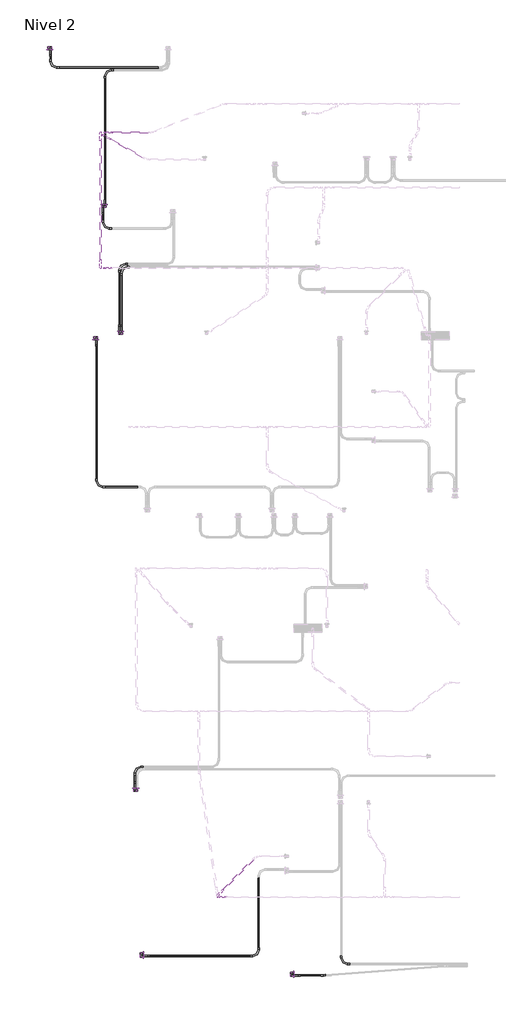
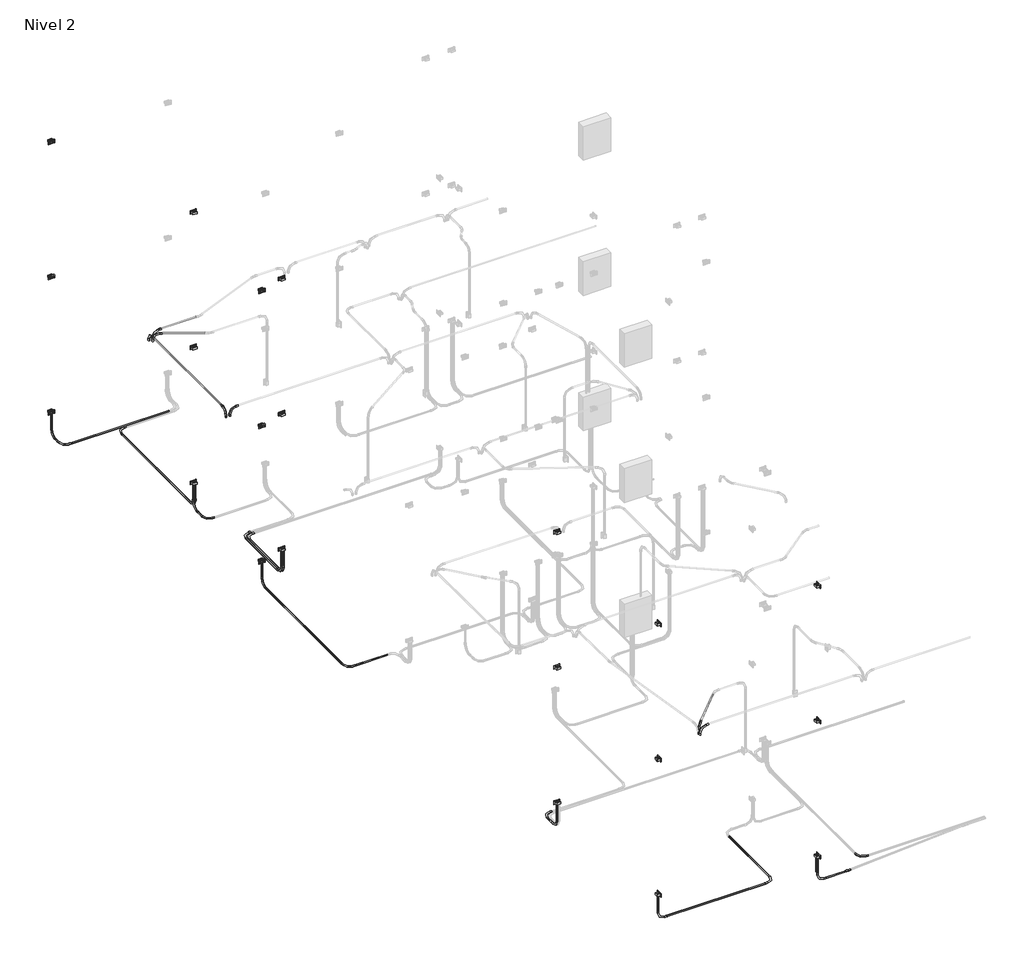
# One storey, part 1 of 10: 26 cable carrier fittings, 26 cable carrier segments, 21 proxies.
"""IFC4 building model written with IfcOpenShell, lengths in millimetres."""

from ifc_helpers import new_model, si_unit, point, frame, frame_2d, origin, place, context, project, spatial, circle_curve, trimmed, segment, composite_curve, outline, extrude, transform, mapped, element, save
from components import gfci_180f1b41, m_codo_de_tubo_extremo_liso_pvc_9da73e12, m_codo_de_tubo_extremo_liso_pvc_e945fc89, m_codo_de_tubo_extremo_liso_pvc_102f0f41

model = new_model("IFC4")

# Units and contexts
model_context = context("Model", 3, world=origin())
ifc_project = project(units=[si_unit("LENGTHUNIT", "METRE", prefix="MILLI")], contexts=[model_context])

# Site, building, storey
site = spatial("IfcSite", under=ifc_project)
building = spatial("IfcBuilding", under=site)
storey = spatial("IfcBuildingStorey", under=building, Name="Nivel 2", Elevation=2800.0)

# Proxies
placement = place(None, origin())
gfci_shape = gfci_180f1b41(model_context)
element("IfcBuildingElementProxy", 1, Name="Tomacorriente doble 220V : GFCI", ObjectType="Tomacorriente doble 220V : GFCI", at=placement, inside=storey, context=model_context, shape_type="MappedRepresentation", body=[
    mapped(gfci_shape, transform((-1576.6187083, 17515.0, 3200.0), x_axis=(0.0, 0.0, 1.0), y_axis=(-1.0, 0.0, 0.0), z_axis=(0.0, -1.0, 0.0))),
])
element("IfcBuildingElementProxy", 2, Name="Tomacorriente doble 220V : GFCI", ObjectType="Tomacorriente doble 220V : GFCI", at=placement, inside=storey, context=model_context, shape_type="MappedRepresentation", body=[
    mapped(gfci_shape, transform((-580.0978546, 14683.4801072, 3200.0), x_axis=(0.0, 0.0, 1.0), y_axis=(1.0, 0.0, 0.0), z_axis=(0.0, 1.0, 0.0))),
])
element("IfcBuildingElementProxy", 3, Name="Tomacorriente doble 220V : GFCI", ObjectType="Tomacorriente doble 220V : GFCI", at=placement, inside=storey, context=model_context, shape_type="MappedRepresentation", body=[
    mapped(gfci_shape, transform((-280.06305, 12365.0, 3200.0), x_axis=(0.0, 0.0, 1.0), y_axis=(1.0, 0.0, 0.0), z_axis=(0.0, 1.0, 0.0))),
])
element("IfcBuildingElementProxy", 4, Name="Tomacorriente doble 220V : GFCI", ObjectType="Tomacorriente doble 220V : GFCI", at=placement, inside=storey, context=model_context, shape_type="MappedRepresentation", body=[
    mapped(gfci_shape, transform((-735.5239175, 12215.0, 3200.0), x_axis=(0.0, 0.0, 1.0), y_axis=(-1.0, 0.0, 0.0), z_axis=(0.0, -1.0, 0.0))),
])
element("IfcBuildingElementProxy", 5, Name="Tomacorriente doble 220V : GFCI", ObjectType="Tomacorriente doble 220V : GFCI", at=placement, inside=storey, context=model_context, shape_type="MappedRepresentation", body=[
    mapped(gfci_shape, transform((-0.955713, 4015.0, 3200.0), x_axis=(0.0, 0.0, 1.0), y_axis=(1.0, 0.0, 0.0), z_axis=(0.0, 1.0, 0.0))),
])
element("IfcBuildingElementProxy", 6, Name="Tomacorriente doble 220V : GFCI", ObjectType="Tomacorriente doble 220V : GFCI", at=placement, inside=storey, context=model_context, shape_type="MappedRepresentation", body=[
    mapped(gfci_shape, transform((135.0, 969.3040793, 3200.0), x_axis=(0.0, 0.0, 1.0), y_axis=(0.0, -1.0, 0.0), z_axis=(1.0, 0.0, 0.0))),
])
element("IfcBuildingElementProxy", 7, Name="Tomacorriente doble 220V : GFCI", ObjectType="Tomacorriente doble 220V : GFCI", at=placement, inside=storey, context=model_context, shape_type="MappedRepresentation", body=[
    mapped(gfci_shape, transform((2885.0, 616.6059943, 3200.0), x_axis=(0.0, 0.0, 1.0), y_axis=(0.0, -1.0, 0.0), z_axis=(1.0, 0.0, 0.0))),
])
element("IfcBuildingElementProxy", 8, Name="Tomacorriente doble 220V : GFCI", ObjectType="Tomacorriente doble 220V : GFCI", at=placement, inside=storey, context=model_context, shape_type="MappedRepresentation", body=[
    mapped(gfci_shape, transform((-1576.6187083, 17515.0, 5850.0), x_axis=(0.0, 0.0, 1.0), y_axis=(-1.0, 0.0, 0.0), z_axis=(0.0, -1.0, 0.0))),
])
element("IfcBuildingElementProxy", 9, Name="Tomacorriente doble 220V : GFCI", ObjectType="Tomacorriente doble 220V : GFCI", at=placement, inside=storey, context=model_context, shape_type="MappedRepresentation", body=[
    mapped(gfci_shape, transform((-580.0978546, 14683.4801072, 5850.0), x_axis=(0.0, 0.0, 1.0), y_axis=(1.0, 0.0, 0.0), z_axis=(0.0, 1.0, 0.0))),
])
element("IfcBuildingElementProxy", 10, Name="Tomacorriente doble 220V : GFCI", ObjectType="Tomacorriente doble 220V : GFCI", at=placement, inside=storey, context=model_context, shape_type="MappedRepresentation", body=[
    mapped(gfci_shape, transform((-280.06305, 12365.0, 5850.0), x_axis=(0.0, 0.0, 1.0), y_axis=(1.0, 0.0, 0.0), z_axis=(0.0, 1.0, 0.0))),
])
element("IfcBuildingElementProxy", 11, Name="Tomacorriente doble 220V : GFCI", ObjectType="Tomacorriente doble 220V : GFCI", at=placement, inside=storey, context=model_context, shape_type="MappedRepresentation", body=[
    mapped(gfci_shape, transform((-735.5239175, 12215.0, 5850.0), x_axis=(0.0, 0.0, 1.0), y_axis=(-1.0, 0.0, 0.0), z_axis=(0.0, -1.0, 0.0))),
])
element("IfcBuildingElementProxy", 12, Name="Tomacorriente doble 220V : GFCI", ObjectType="Tomacorriente doble 220V : GFCI", at=placement, inside=storey, context=model_context, shape_type="MappedRepresentation", body=[
    mapped(gfci_shape, transform((-0.955713, 4015.0, 5850.0), x_axis=(0.0, 0.0, 1.0), y_axis=(1.0, 0.0, 0.0), z_axis=(0.0, 1.0, 0.0))),
])
element("IfcBuildingElementProxy", 13, Name="Tomacorriente doble 220V : GFCI", ObjectType="Tomacorriente doble 220V : GFCI", at=placement, inside=storey, context=model_context, shape_type="MappedRepresentation", body=[
    mapped(gfci_shape, transform((135.0, 969.3040793, 5850.0), x_axis=(0.0, 0.0, 1.0), y_axis=(0.0, -1.0, 0.0), z_axis=(1.0, 0.0, 0.0))),
])
element("IfcBuildingElementProxy", 14, Name="Tomacorriente doble 220V : GFCI", ObjectType="Tomacorriente doble 220V : GFCI", at=placement, inside=storey, context=model_context, shape_type="MappedRepresentation", body=[
    mapped(gfci_shape, transform((2885.0, 616.6059943, 5850.0), x_axis=(0.0, 0.0, 1.0), y_axis=(0.0, -1.0, 0.0), z_axis=(1.0, 0.0, 0.0))),
])
element("IfcBuildingElementProxy", 15, Name="Tomacorriente doble 220V : GFCI", ObjectType="Tomacorriente doble 220V : GFCI", at=placement, inside=storey, context=model_context, shape_type="MappedRepresentation", body=[
    mapped(gfci_shape, transform((-1576.6187083, 17515.0, 8500.0), x_axis=(0.0, 0.0, 1.0), y_axis=(-1.0, 0.0, 0.0), z_axis=(0.0, -1.0, 0.0))),
])
element("IfcBuildingElementProxy", 16, Name="Tomacorriente doble 220V : GFCI", ObjectType="Tomacorriente doble 220V : GFCI", at=placement, inside=storey, context=model_context, shape_type="MappedRepresentation", body=[
    mapped(gfci_shape, transform((-580.0978546, 14683.4801072, 8500.0), x_axis=(0.0, 0.0, 1.0), y_axis=(1.0, 0.0, 0.0), z_axis=(0.0, 1.0, 0.0))),
])
element("IfcBuildingElementProxy", 17, Name="Tomacorriente doble 220V : GFCI", ObjectType="Tomacorriente doble 220V : GFCI", at=placement, inside=storey, context=model_context, shape_type="MappedRepresentation", body=[
    mapped(gfci_shape, transform((-280.06305, 12365.0, 8500.0), x_axis=(0.0, 0.0, 1.0), y_axis=(1.0, 0.0, 0.0), z_axis=(0.0, 1.0, 0.0))),
])
element("IfcBuildingElementProxy", 18, Name="Tomacorriente doble 220V : GFCI", ObjectType="Tomacorriente doble 220V : GFCI", at=placement, inside=storey, context=model_context, shape_type="MappedRepresentation", body=[
    mapped(gfci_shape, transform((-735.5239175, 12215.0, 8500.0), x_axis=(0.0, 0.0, 1.0), y_axis=(-1.0, 0.0, 0.0), z_axis=(0.0, -1.0, 0.0))),
])
element("IfcBuildingElementProxy", 19, Name="Tomacorriente doble 220V : GFCI", ObjectType="Tomacorriente doble 220V : GFCI", at=placement, inside=storey, context=model_context, shape_type="MappedRepresentation", body=[
    mapped(gfci_shape, transform((-0.955713, 4015.0, 8500.0), x_axis=(0.0, 0.0, 1.0), y_axis=(1.0, 0.0, 0.0), z_axis=(0.0, 1.0, 0.0))),
])
element("IfcBuildingElementProxy", 20, Name="Tomacorriente doble 220V : GFCI", ObjectType="Tomacorriente doble 220V : GFCI", at=placement, inside=storey, context=model_context, shape_type="MappedRepresentation", body=[
    mapped(gfci_shape, transform((135.0, 969.3040793, 8500.0), x_axis=(0.0, 0.0, 1.0), y_axis=(0.0, -1.0, 0.0), z_axis=(1.0, 0.0, 0.0))),
])
element("IfcBuildingElementProxy", 21, Name="Tomacorriente doble 220V : GFCI", ObjectType="Tomacorriente doble 220V : GFCI", at=placement, inside=storey, context=model_context, shape_type="MappedRepresentation", body=[
    mapped(gfci_shape, transform((2885.0, 616.6059943, 8500.0), x_axis=(0.0, 0.0, 1.0), y_axis=(0.0, -1.0, 0.0), z_axis=(1.0, 0.0, 0.0))),
])

# Cable carrier fittings
m_codo_de_tubo_extremo_liso_pvc_shape = m_codo_de_tubo_extremo_liso_pvc_9da73e12(model_context)
element("IfcCableCarrierFitting", 22, ObjectType="M_Codo de tubo - Extremo liso - PVC : CODO POTENCIA", at=placement, inside=storey, context=model_context, shape_type="MappedRepresentation", body=[
    mapped(m_codo_de_tubo_extremo_liso_pvc_shape, transform((-1558.5868884, 17544.6371118, 2730.0), x_axis=(0.0, 0.0, -1.0), y_axis=(0.0, -1.0, 0.0), z_axis=(-1.0, 0.0, 0.0))),
])
element("IfcCableCarrierFitting", 23, ObjectType="M_Codo de tubo - Extremo liso - PVC : CODO POTENCIA", at=placement, inside=storey, context=model_context, shape_type="MappedRepresentation", body=[
    mapped(m_codo_de_tubo_extremo_liso_pvc_shape, transform((-717.4920977, 12244.6371118, 2730.0), x_axis=(0.0, 0.0, -1.0), y_axis=(0.0, -1.0, 0.0), z_axis=(-1.0, 0.0, 0.0))),
])
element("IfcCableCarrierFitting", 24, ObjectType="M_Codo de tubo - Extremo liso - PVC : CODO POTENCIA", at=placement, inside=storey, context=model_context, shape_type="MappedRepresentation", body=[
    mapped(m_codo_de_tubo_extremo_liso_pvc_shape, transform((-717.4920977, 9523.463856, 2730.0), x_axis=(0.0, -1.0, 0.0), y_axis=(1.0, 0.0, 0.0), z_axis=(0.0, 0.0, 1.0))),
])
element("IfcCableCarrierFitting", 25, ObjectType="M_Codo de tubo - Extremo liso - PVC : CODO POTENCIA", at=placement, inside=storey, context=model_context, shape_type="MappedRepresentation", body=[
    mapped(m_codo_de_tubo_extremo_liso_pvc_shape, transform((-262.0312302, 13545.7723493, 2730.0), x_axis=(-1.0, 0.0, 0.0), y_axis=(0.0, -1.0, 0.0), z_axis=(0.0, 0.0, 1.0))),
])
element("IfcCableCarrierFitting", 26, ObjectType="M_Codo de tubo - Extremo liso - PVC : CODO POTENCIA", at=placement, inside=storey, context=model_context, shape_type="MappedRepresentation", body=[
    mapped(m_codo_de_tubo_extremo_liso_pvc_shape, transform((-262.0312302, 12335.3628882, 2730.0), x_axis=(0.0, 0.0, -1.0), y_axis=(0.0, 1.0, 0.0), z_axis=(1.0, 0.0, 0.0))),
])
element("IfcCableCarrierFitting", 27, ObjectType="M_Codo de tubo - Extremo liso - PVC : CODO POTENCIA", at=placement, inside=storey, context=model_context, shape_type="MappedRepresentation", body=[
    mapped(m_codo_de_tubo_extremo_liso_pvc_shape, transform((-298.0948698, 13596.0465616, 2730.0), x_axis=(-1.0, 0.0, 0.0), y_axis=(0.0, -1.0, 0.0), z_axis=(0.0, 0.0, 1.0))),
])
element("IfcCableCarrierFitting", 28, ObjectType="M_Codo de tubo - Extremo liso - PVC : CODO POTENCIA", at=placement, inside=storey, context=model_context, shape_type="MappedRepresentation", body=[
    mapped(m_codo_de_tubo_extremo_liso_pvc_shape, transform((-298.0948698, 12335.3628882, 2730.0), x_axis=(0.0, 0.0, -1.0), y_axis=(0.0, 1.0, 0.0), z_axis=(1.0, 0.0, 0.0))),
])
element("IfcCableCarrierFitting", 29, ObjectType="M_Codo de tubo - Extremo liso - PVC : CODO POTENCIA", at=placement, inside=storey, context=model_context, shape_type="MappedRepresentation", body=[
    mapped(m_codo_de_tubo_extremo_liso_pvc_shape, transform((-598.1296744, 14653.8429955, 2730.0), x_axis=(0.0, 0.0, -1.0), y_axis=(0.0, -1.0, 0.0), z_axis=(-1.0, 0.0, 0.0))),
])
element("IfcCableCarrierFitting", 30, ObjectType="M_Codo de tubo - Extremo liso - PVC : CODO POTENCIA", at=placement, inside=storey, context=model_context, shape_type="MappedRepresentation", body=[
    mapped(m_codo_de_tubo_extremo_liso_pvc_shape, transform((-598.1296744, 14243.117219, 2730.0), x_axis=(0.0, -1.0, 0.0), y_axis=(1.0, 0.0, 0.0), z_axis=(0.0, 0.0, 1.0))),
])
element("IfcCableCarrierFitting", 31, ObjectType="M_Codo de tubo - Extremo liso - PVC : CODO POTENCIA", at=placement, inside=storey, context=model_context, shape_type="MappedRepresentation", body=[
    mapped(m_codo_de_tubo_extremo_liso_pvc_shape, transform((-562.0660348, 17141.7513363, 2730.0), x_axis=(-1.0, 0.0, 0.0), y_axis=(0.0, -1.0, 0.0), z_axis=(0.0, 0.0, 1.0))),
])
element("IfcCableCarrierFitting", 32, ObjectType="M_Codo de tubo - Extremo liso - PVC : CODO POTENCIA", at=placement, inside=storey, context=model_context, shape_type="MappedRepresentation", body=[
    mapped(m_codo_de_tubo_extremo_liso_pvc_shape, transform((-562.0660348, 14653.8429955, 2730.0), x_axis=(0.0, 0.0, -1.0), y_axis=(0.0, 1.0, 0.0), z_axis=(1.0, 0.0, 0.0))),
])
element("IfcCableCarrierFitting", 33, ObjectType="M_Codo de tubo - Extremo liso - PVC : CODO POTENCIA", at=placement, inside=storey, context=model_context, shape_type="MappedRepresentation", body=[
    mapped(m_codo_de_tubo_extremo_liso_pvc_shape, transform((-1558.5868884, 17184.6371118, 2730.0), x_axis=(0.0, -1.0, 0.0), y_axis=(1.0, 0.0, 0.0), z_axis=(0.0, 0.0, 1.0))),
])
element("IfcCableCarrierFitting", 34, ObjectType="M_Codo de tubo - Extremo liso - PVC : CODO POTENCIA", at=placement, inside=storey, context=model_context, shape_type="MappedRepresentation", body=[
    mapped(m_codo_de_tubo_extremo_liso_pvc_shape, transform((-18.9875328, 3985.3628882, 2730.0), x_axis=(0.0, 0.0, -1.0), y_axis=(0.0, 1.0, 0.0), z_axis=(1.0, 0.0, 0.0))),
])
element("IfcCableCarrierFitting", 35, ObjectType="M_Codo de tubo - Extremo liso - PVC : CODO POTENCIA", at=placement, inside=storey, context=model_context, shape_type="MappedRepresentation", body=[
    mapped(m_codo_de_tubo_extremo_liso_pvc_shape, transform((-18.9875328, 4410.0, 2730.0), x_axis=(-1.0, 0.0, 0.0), y_axis=(0.0, -1.0, 0.0), z_axis=(0.0, 0.0, 1.0))),
])
element("IfcCableCarrierFitting", 36, ObjectType="M_Codo de tubo - Extremo liso - PVC : CODO POTENCIA", at=placement, inside=storey, context=model_context, shape_type="MappedRepresentation", body=[
    mapped(m_codo_de_tubo_extremo_liso_pvc_shape, transform((105.3628882, 951.2722594, 2730.0), x_axis=(0.0, 0.0, -1.0), y_axis=(1.0, 0.0, 0.0), z_axis=(0.0, -1.0, 0.0))),
])
element("IfcCableCarrierFitting", 37, ObjectType="M_Codo de tubo - Extremo liso - PVC : CODO POTENCIA", at=placement, inside=storey, context=model_context, shape_type="MappedRepresentation", body=[
    mapped(m_codo_de_tubo_extremo_liso_pvc_shape, transform((2855.3628882, 598.5741745, 2730.0), x_axis=(0.0, 0.0, -1.0), y_axis=(1.0, 0.0, 0.0), z_axis=(0.0, -1.0, 0.0))),
])
element("IfcCableCarrierFitting", 38, ObjectType="M_Codo de tubo - Extremo liso - PVC : CODO POTENCIA", at=placement, inside=storey, context=model_context, shape_type="MappedRepresentation", body=[
    mapped(m_codo_de_tubo_extremo_liso_pvc_shape, transform((3759.7333421, 805.065499, 2730.0), x_axis=(0.0, -1.0, 0.0), y_axis=(1.0, 0.0, 0.0), z_axis=(0.0, 0.0, 1.0))),
])
element("IfcCableCarrierFitting", 39, ObjectType="M_Codo de tubo - Extremo liso - PVC : CODO POTENCIA", at=placement, inside=storey, context=model_context, shape_type="MappedRepresentation", body=[
    mapped(m_codo_de_tubo_extremo_liso_pvc_shape, transform((2245.3628882, 951.2722594, 2730.0), x_axis=(1.0, 0.0, 0.0), y_axis=(0.0, 1.0, 0.0), z_axis=(0.0, 0.0, 1.0))),
])
m_codo_de_tubo_extremo_liso_pvc_2_shape = m_codo_de_tubo_extremo_liso_pvc_e945fc89(model_context)
element("IfcCableCarrierFitting", 40, ObjectType="M_Codo de tubo - Extremo liso - PVC : CODO POTENCIA", at=placement, inside=storey, context=model_context, shape_type="MappedRepresentation", body=[
    mapped(m_codo_de_tubo_extremo_liso_pvc_2_shape, transform((3425.3628882, 598.5741745, 2730.0), x_axis=(1.0, 0.0, 0.0), y_axis=(0.0, 1.0, 0.0), z_axis=(0.0, 0.0, 1.0))),
])
element("IfcCableCarrierFitting", 41, ObjectType="M_Codo de tubo - Extremo liso - PVC : CODO ILUMINACION", at=placement, inside=storey, context=model_context, shape_type="MappedRepresentation", body=[
    mapped(m_codo_de_tubo_extremo_liso_pvc_shape, transform((-574.4336886, 16001.2965089, 5350.0), x_axis=(-1.0, 0.0, 0.0), y_axis=(0.0, 0.0, -1.0), z_axis=(0.0, -1.0, 0.0))),
])
element("IfcCableCarrierFitting", 42, ObjectType="M_Codo de tubo - Extremo liso - PVC : CODO ILUMINACION", at=placement, inside=storey, context=model_context, shape_type="MappedRepresentation", body=[
    mapped(m_codo_de_tubo_extremo_liso_pvc_shape, transform((-574.7554902, 13521.2601744, 5350.0), x_axis=(-1.0, 0.0, 0.0), y_axis=(0.0, 0.0, -1.0), z_axis=(0.0, -1.0, 0.0))),
])
element("IfcCableCarrierFitting", 43, ObjectType="M_Codo de tubo - Extremo liso - PVC : CODO ILUMINACION", at=placement, inside=storey, context=model_context, shape_type="MappedRepresentation", body=[
    mapped(m_codo_de_tubo_extremo_liso_pvc_shape, transform((1504.5487012, 2026.1291573, 5350.0), x_axis=(-1.0, 0.0, 0.0), y_axis=(0.0, 0.0, -1.0), z_axis=(0.0, -1.0, 0.0))),
])
element("IfcCableCarrierFitting", 44, ObjectType="M_Codo de tubo - Extremo liso - PVC : CODO ILUMINACION", at=placement, inside=storey, context=model_context, shape_type="MappedRepresentation", body=[
    mapped(m_codo_de_tubo_extremo_liso_pvc_shape, transform((-644.8986574, 16001.2965089, 5350.0), x_axis=(0.0, 1.0, 0.0), y_axis=(0.0, 0.0, -1.0), z_axis=(-1.0, 0.0, 0.0))),
])
element("IfcCableCarrierFitting", 45, ObjectType="M_Codo de tubo - Extremo liso - PVC : CODO ILUMINACION", at=placement, inside=storey, context=model_context, shape_type="MappedRepresentation", body=[
    mapped(m_codo_de_tubo_extremo_liso_pvc_shape, transform((-598.987036, 15953.0013122, 5350.0), x_axis=(-0.872280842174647, 0.4890052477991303, 0.0), y_axis=(0.0, 0.0, -1.0000000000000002), z_axis=(-0.4890052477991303, -0.872280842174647, 0.0))),
])
m_codo_de_tubo_extremo_liso_pvc_3_shape = m_codo_de_tubo_extremo_liso_pvc_102f0f41(model_context)
element("IfcCableCarrierFitting", 46, ObjectType="M_Codo de tubo - Extremo liso - PVC : CODO ILUMINACION", at=placement, inside=storey, context=model_context, shape_type="MappedRepresentation", body=[
    mapped(m_codo_de_tubo_extremo_liso_pvc_3_shape, transform((-644.8986574, 13523.5594057, 5350.0), x_axis=(0.0, -1.0, 0.0), y_axis=(0.0, 0.0, 1.0), z_axis=(-1.0, 0.0, 0.0))),
])
element("IfcCableCarrierFitting", 47, ObjectType="M_Codo de tubo - Extremo liso - PVC : CODO ILUMINACION", at=placement, inside=storey, context=model_context, shape_type="MappedRepresentation", body=[
    mapped(m_codo_de_tubo_extremo_liso_pvc_3_shape, transform((1492.8488633, 2054.1019402, 5350.0), x_axis=(-0.7022150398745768, -0.7119649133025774, 0.0), y_axis=(0.0, 0.0, 1.0), z_axis=(-0.7119649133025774, 0.7022150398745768, 0.0))),
])

# Cable carrier segments
element("IfcCableCarrierSegment", 48, ObjectType="PVC-SEL, POTENCIA", at=placement, inside=storey, context=model_context, shape_type="SweptSolid", body=[
    extrude(outline(composite_curve([segment(trimmed(circle_curve(frame_2d((2730.0, -1558.5868884)), 11.71), [point((2730.0, -1570.2968884))], [point((2718.29, -1558.5868884))], False, "CARTESIAN"), True, "CONTINUOUS"), segment(trimmed(circle_curve(frame_2d((2730.0, -1558.5868884)), 11.71), [point((2718.29, -1558.5868884))], [point((2730.0, -1546.8768884))], False, "CARTESIAN"), True, "CONTINUOUS"), segment(trimmed(circle_curve(frame_2d((2730.0, -1558.5868884)), 11.71), [point((2730.0, -1546.8768884))], [point((2741.71, -1558.5868884))], False, "CARTESIAN"), True, "CONTINUOUS"), segment(trimmed(circle_curve(frame_2d((2730.0, -1558.5868884)), 11.71), [point((2741.71, -1558.5868884))], [point((2730.0, -1570.2968884))], False, "CARTESIAN"), True, "CONTINUOUS")], self_intersect=False)), frame((0.0, 17337.0371118, 0.0), z_axis=(0.0, 1.0, 0.0), x_axis=(0.0, 0.0, 1.0)), (0.0, 0.0, 1.0), 55.2),
])
element("IfcCableCarrierSegment", 49, ObjectType="PVC-SEL, POTENCIA", at=placement, inside=storey, context=model_context, shape_type="SweptSolid", body=[
    extrude(outline(composite_curve([segment(trimmed(circle_curve(frame_2d((-1558.5868884, 17544.6371118)), 11.71), [point((-1546.8768884, 17544.6371118))], [point((-1558.5868884, 17532.9271118))], False, "CARTESIAN"), True, "CONTINUOUS"), segment(trimmed(circle_curve(frame_2d((-1558.5868884, 17544.6371118)), 11.71), [point((-1558.5868884, 17532.9271118))], [point((-1570.2968884, 17544.6371118))], False, "CARTESIAN"), True, "CONTINUOUS"), segment(trimmed(circle_curve(frame_2d((-1558.5868884, 17544.6371118)), 11.71), [point((-1570.2968884, 17544.6371118))], [point((-1558.5868884, 17556.3471118))], False, "CARTESIAN"), True, "CONTINUOUS"), segment(trimmed(circle_curve(frame_2d((-1558.5868884, 17544.6371118)), 11.71), [point((-1558.5868884, 17556.3471118))], [point((-1546.8768884, 17544.6371118))], False, "CARTESIAN"), True, "CONTINUOUS")], self_intersect=False)), frame((0.0, 0.0, 2882.4), z_axis=(0.0, 0.0, 1.0), x_axis=(1.0, 0.0, 0.0)), (0.0, 0.0, 1.0), 297.3020537),
])
element("IfcCableCarrierSegment", 50, ObjectType="PVC-SEL, POTENCIA", at=placement, inside=storey, context=model_context, shape_type="SweptSolid", body=[
    extrude(outline(composite_curve([segment(trimmed(circle_curve(frame_2d((2730.0, -562.0660348)), 11.71), [point((2730.0, -573.7760348))], [point((2718.29, -562.0660348))], False, "CARTESIAN"), True, "CONTINUOUS"), segment(trimmed(circle_curve(frame_2d((2730.0, -562.0660348)), 11.71), [point((2718.29, -562.0660348))], [point((2730.0, -550.3560348))], False, "CARTESIAN"), True, "CONTINUOUS"), segment(trimmed(circle_curve(frame_2d((2730.0, -562.0660348)), 11.71), [point((2730.0, -550.3560348))], [point((2741.71, -562.0660348))], False, "CARTESIAN"), True, "CONTINUOUS"), segment(trimmed(circle_curve(frame_2d((2730.0, -562.0660348)), 11.71), [point((2741.71, -562.0660348))], [point((2730.0, -573.7760348))], False, "CARTESIAN"), True, "CONTINUOUS")], self_intersect=False)), frame((0.0, 14806.2429955, 0.0), z_axis=(0.0, 1.0, 0.0), x_axis=(0.0, 0.0, 1.0)), (0.0, 0.0, 1.0), 2183.1083408),
])
element("IfcCableCarrierSegment", 51, ObjectType="PVC-SEL, POTENCIA", at=placement, inside=storey, context=model_context, shape_type="SweptSolid", body=[
    extrude(outline(composite_curve([segment(trimmed(circle_curve(frame_2d((-562.0660348, 14653.8429955)), 11.71), [point((-550.3560348, 14653.8429955))], [point((-562.0660348, 14642.1329955))], False, "CARTESIAN"), True, "CONTINUOUS"), segment(trimmed(circle_curve(frame_2d((-562.0660348, 14653.8429955)), 11.71), [point((-562.0660348, 14642.1329955))], [point((-573.7760348, 14653.8429955))], False, "CARTESIAN"), True, "CONTINUOUS"), segment(trimmed(circle_curve(frame_2d((-562.0660348, 14653.8429955)), 11.71), [point((-573.7760348, 14653.8429955))], [point((-562.0660348, 14665.5529955))], False, "CARTESIAN"), True, "CONTINUOUS"), segment(trimmed(circle_curve(frame_2d((-562.0660348, 14653.8429955)), 11.71), [point((-562.0660348, 14665.5529955))], [point((-550.3560348, 14653.8429955))], False, "CARTESIAN"), True, "CONTINUOUS")], self_intersect=False)), frame((0.0, 0.0, 2882.4), z_axis=(0.0, 0.0, 1.0), x_axis=(1.0, 0.0, 0.0)), (0.0, 0.0, 1.0), 297.3020537),
])
element("IfcCableCarrierSegment", 52, ObjectType="PVC-SEL, POTENCIA", at=placement, inside=storey, context=model_context, shape_type="SweptSolid", body=[
    extrude(outline(composite_curve([segment(trimmed(circle_curve(frame_2d((2730.0, -717.4920977)), 11.71), [point((2730.0, -729.2020977))], [point((2718.29, -717.4920977))], False, "CARTESIAN"), True, "CONTINUOUS"), segment(trimmed(circle_curve(frame_2d((2730.0, -717.4920977)), 11.71), [point((2718.29, -717.4920977))], [point((2730.0, -705.7820977))], False, "CARTESIAN"), True, "CONTINUOUS"), segment(trimmed(circle_curve(frame_2d((2730.0, -717.4920977)), 11.71), [point((2730.0, -705.7820977))], [point((2741.71, -717.4920977))], False, "CARTESIAN"), True, "CONTINUOUS"), segment(trimmed(circle_curve(frame_2d((2730.0, -717.4920977)), 11.71), [point((2741.71, -717.4920977))], [point((2730.0, -729.2020977))], False, "CARTESIAN"), True, "CONTINUOUS")], self_intersect=False)), frame((0.0, 9675.863856, 0.0), z_axis=(0.0, 1.0, 0.0), x_axis=(0.0, 0.0, 1.0)), (0.0, 0.0, 1.0), 2416.3732558),
])
element("IfcCableCarrierSegment", 53, ObjectType="PVC-SEL, POTENCIA", at=placement, inside=storey, context=model_context, shape_type="SweptSolid", body=[
    extrude(outline(composite_curve([segment(trimmed(circle_curve(frame_2d((-717.4920977, 12244.6371118)), 11.71), [point((-705.7820977, 12244.6371118))], [point((-717.4920977, 12232.9271118))], False, "CARTESIAN"), True, "CONTINUOUS"), segment(trimmed(circle_curve(frame_2d((-717.4920977, 12244.6371118)), 11.71), [point((-717.4920977, 12232.9271118))], [point((-729.2020977, 12244.6371118))], False, "CARTESIAN"), True, "CONTINUOUS"), segment(trimmed(circle_curve(frame_2d((-717.4920977, 12244.6371118)), 11.71), [point((-729.2020977, 12244.6371118))], [point((-717.4920977, 12256.3471118))], False, "CARTESIAN"), True, "CONTINUOUS"), segment(trimmed(circle_curve(frame_2d((-717.4920977, 12244.6371118)), 11.71), [point((-717.4920977, 12256.3471118))], [point((-705.7820977, 12244.6371118))], False, "CARTESIAN"), True, "CONTINUOUS")], self_intersect=False)), frame((0.0, 0.0, 2882.4), z_axis=(0.0, 0.0, 1.0), x_axis=(1.0, 0.0, 0.0)), (0.0, 0.0, 1.0), 297.3020537),
])
element("IfcCableCarrierSegment", 54, ObjectType="PVC-SEL, POTENCIA", at=placement, inside=storey, context=model_context, shape_type="SweptSolid", body=[
    extrude(outline(composite_curve([segment(trimmed(circle_curve(frame_2d((9523.463856, 2730.0)), 11.71), [point((9535.173856, 2730.0))], [point((9523.463856, 2718.29))], False, "CARTESIAN"), True, "CONTINUOUS"), segment(trimmed(circle_curve(frame_2d((9523.463856, 2730.0)), 11.71), [point((9523.463856, 2718.29))], [point((9511.753856, 2730.0))], False, "CARTESIAN"), True, "CONTINUOUS"), segment(trimmed(circle_curve(frame_2d((9523.463856, 2730.0)), 11.71), [point((9511.753856, 2730.0))], [point((9523.463856, 2741.71))], False, "CARTESIAN"), True, "CONTINUOUS"), segment(trimmed(circle_curve(frame_2d((9523.463856, 2730.0)), 11.71), [point((9523.463856, 2741.71))], [point((9535.173856, 2730.0))], False, "CARTESIAN"), True, "CONTINUOUS")], self_intersect=False)), frame((-565.0920977, 0.0, 0.0), z_axis=(1.0, 0.0, 0.0), x_axis=(0.0, 1.0, 0.0)), (0.0, 0.0, 1.0), 607.1395395),
])
element("IfcCableCarrierSegment", 55, ObjectType="PVC-SEL, POTENCIA", at=placement, inside=storey, context=model_context, shape_type="SweptSolid", body=[
    extrude(outline(composite_curve([segment(trimmed(circle_curve(frame_2d((2730.0, -262.0312302)), 11.71), [point((2730.0, -273.7412302))], [point((2718.29, -262.0312302))], False, "CARTESIAN"), True, "CONTINUOUS"), segment(trimmed(circle_curve(frame_2d((2730.0, -262.0312302)), 11.71), [point((2718.29, -262.0312302))], [point((2730.0, -250.3212302))], False, "CARTESIAN"), True, "CONTINUOUS"), segment(trimmed(circle_curve(frame_2d((2730.0, -262.0312302)), 11.71), [point((2730.0, -250.3212302))], [point((2741.71, -262.0312302))], False, "CARTESIAN"), True, "CONTINUOUS"), segment(trimmed(circle_curve(frame_2d((2730.0, -262.0312302)), 11.71), [point((2741.71, -262.0312302))], [point((2730.0, -273.7412302))], False, "CARTESIAN"), True, "CONTINUOUS")], self_intersect=False)), frame((0.0, 12487.7628882, 0.0), z_axis=(0.0, 1.0, 0.0), x_axis=(0.0, 0.0, 1.0)), (0.0, 0.0, 1.0), 905.609461),
])
element("IfcCableCarrierSegment", 56, ObjectType="PVC-SEL, POTENCIA", at=placement, inside=storey, context=model_context, shape_type="SweptSolid", body=[
    extrude(outline(composite_curve([segment(trimmed(circle_curve(frame_2d((-262.0312302, 12335.3628882)), 11.71), [point((-250.3212302, 12335.3628882))], [point((-262.0312302, 12323.6528882))], False, "CARTESIAN"), True, "CONTINUOUS"), segment(trimmed(circle_curve(frame_2d((-262.0312302, 12335.3628882)), 11.71), [point((-262.0312302, 12323.6528882))], [point((-273.7412302, 12335.3628882))], False, "CARTESIAN"), True, "CONTINUOUS"), segment(trimmed(circle_curve(frame_2d((-262.0312302, 12335.3628882)), 11.71), [point((-273.7412302, 12335.3628882))], [point((-262.0312302, 12347.0728882))], False, "CARTESIAN"), True, "CONTINUOUS"), segment(trimmed(circle_curve(frame_2d((-262.0312302, 12335.3628882)), 11.71), [point((-262.0312302, 12347.0728882))], [point((-250.3212302, 12335.3628882))], False, "CARTESIAN"), True, "CONTINUOUS")], self_intersect=False)), frame((0.0, 0.0, 2882.4), z_axis=(0.0, 0.0, 1.0), x_axis=(1.0, 0.0, 0.0)), (0.0, 0.0, 1.0), 297.3020537),
])
element("IfcCableCarrierSegment", 57, ObjectType="PVC-SEL, POTENCIA", at=placement, inside=storey, context=model_context, shape_type="SweptSolid", body=[
    extrude(outline(composite_curve([segment(trimmed(circle_curve(frame_2d((2730.0, -298.0948698)), 11.71), [point((2730.0, -309.8048698))], [point((2718.29, -298.0948698))], False, "CARTESIAN"), True, "CONTINUOUS"), segment(trimmed(circle_curve(frame_2d((2730.0, -298.0948698)), 11.71), [point((2718.29, -298.0948698))], [point((2730.0, -286.3848698))], False, "CARTESIAN"), True, "CONTINUOUS"), segment(trimmed(circle_curve(frame_2d((2730.0, -298.0948698)), 11.71), [point((2730.0, -286.3848698))], [point((2741.71, -298.0948698))], False, "CARTESIAN"), True, "CONTINUOUS"), segment(trimmed(circle_curve(frame_2d((2730.0, -298.0948698)), 11.71), [point((2741.71, -298.0948698))], [point((2730.0, -309.8048698))], False, "CARTESIAN"), True, "CONTINUOUS")], self_intersect=False)), frame((0.0, 12487.7628882, 0.0), z_axis=(0.0, 1.0, 0.0), x_axis=(0.0, 0.0, 1.0)), (0.0, 0.0, 1.0), 955.8836734),
])
element("IfcCableCarrierSegment", 58, ObjectType="PVC-SEL, POTENCIA", at=placement, inside=storey, context=model_context, shape_type="SweptSolid", body=[
    extrude(outline(composite_curve([segment(trimmed(circle_curve(frame_2d((-298.0948698, 12335.3628882)), 11.71), [point((-286.3848698, 12335.3628882))], [point((-298.0948698, 12323.6528882))], False, "CARTESIAN"), True, "CONTINUOUS"), segment(trimmed(circle_curve(frame_2d((-298.0948698, 12335.3628882)), 11.71), [point((-298.0948698, 12323.6528882))], [point((-309.8048698, 12335.3628882))], False, "CARTESIAN"), True, "CONTINUOUS"), segment(trimmed(circle_curve(frame_2d((-298.0948698, 12335.3628882)), 11.71), [point((-309.8048698, 12335.3628882))], [point((-298.0948698, 12347.0728882))], False, "CARTESIAN"), True, "CONTINUOUS"), segment(trimmed(circle_curve(frame_2d((-298.0948698, 12335.3628882)), 11.71), [point((-298.0948698, 12347.0728882))], [point((-286.3848698, 12335.3628882))], False, "CARTESIAN"), True, "CONTINUOUS")], self_intersect=False)), frame((0.0, 0.0, 2882.4), z_axis=(0.0, 0.0, 1.0), x_axis=(1.0, 0.0, 0.0)), (0.0, 0.0, 1.0), 297.3020537),
])
element("IfcCableCarrierSegment", 59, ObjectType="PVC-SEL, POTENCIA", at=placement, inside=storey, context=model_context, shape_type="SweptSolid", body=[
    extrude(outline(composite_curve([segment(trimmed(circle_curve(frame_2d((2730.0, -598.1296744)), 11.71), [point((2730.0, -609.8396744))], [point((2718.29, -598.1296744))], False, "CARTESIAN"), True, "CONTINUOUS"), segment(trimmed(circle_curve(frame_2d((2730.0, -598.1296744)), 11.71), [point((2718.29, -598.1296744))], [point((2730.0, -586.4196744))], False, "CARTESIAN"), True, "CONTINUOUS"), segment(trimmed(circle_curve(frame_2d((2730.0, -598.1296744)), 11.71), [point((2730.0, -586.4196744))], [point((2741.71, -598.1296744))], False, "CARTESIAN"), True, "CONTINUOUS"), segment(trimmed(circle_curve(frame_2d((2730.0, -598.1296744)), 11.71), [point((2741.71, -598.1296744))], [point((2730.0, -609.8396744))], False, "CARTESIAN"), True, "CONTINUOUS")], self_intersect=False)), frame((0.0, 14395.517219, 0.0), z_axis=(0.0, 1.0, 0.0), x_axis=(0.0, 0.0, 1.0)), (0.0, 0.0, 1.0), 105.9257764),
])
element("IfcCableCarrierSegment", 60, ObjectType="PVC-SEL, POTENCIA", at=placement, inside=storey, context=model_context, shape_type="SweptSolid", body=[
    extrude(outline(composite_curve([segment(trimmed(circle_curve(frame_2d((-598.1296744, 14653.8429955)), 11.71), [point((-586.4196744, 14653.8429955))], [point((-598.1296744, 14642.1329955))], False, "CARTESIAN"), True, "CONTINUOUS"), segment(trimmed(circle_curve(frame_2d((-598.1296744, 14653.8429955)), 11.71), [point((-598.1296744, 14642.1329955))], [point((-609.8396744, 14653.8429955))], False, "CARTESIAN"), True, "CONTINUOUS"), segment(trimmed(circle_curve(frame_2d((-598.1296744, 14653.8429955)), 11.71), [point((-609.8396744, 14653.8429955))], [point((-598.1296744, 14665.5529955))], False, "CARTESIAN"), True, "CONTINUOUS"), segment(trimmed(circle_curve(frame_2d((-598.1296744, 14653.8429955)), 11.71), [point((-598.1296744, 14665.5529955))], [point((-586.4196744, 14653.8429955))], False, "CARTESIAN"), True, "CONTINUOUS")], self_intersect=False)), frame((0.0, 0.0, 2882.4), z_axis=(0.0, 0.0, 1.0), x_axis=(1.0, 0.0, 0.0)), (0.0, 0.0, 1.0), 297.3020537),
])
element("IfcCableCarrierSegment", 61, ObjectType="PVC-SEL, POTENCIA", at=placement, inside=storey, context=model_context, shape_type="SweptSolid", body=[
    extrude(outline(composite_curve([segment(trimmed(circle_curve(frame_2d((17184.6371118, 2730.0)), 11.71), [point((17196.3471118, 2730.0))], [point((17184.6371118, 2718.29))], False, "CARTESIAN"), True, "CONTINUOUS"), segment(trimmed(circle_curve(frame_2d((17184.6371118, 2730.0)), 11.71), [point((17184.6371118, 2718.29))], [point((17172.9271118, 2730.0))], False, "CARTESIAN"), True, "CONTINUOUS"), segment(trimmed(circle_curve(frame_2d((17184.6371118, 2730.0)), 11.71), [point((17172.9271118, 2730.0))], [point((17184.6371118, 2741.71))], False, "CARTESIAN"), True, "CONTINUOUS"), segment(trimmed(circle_curve(frame_2d((17184.6371118, 2730.0)), 11.71), [point((17184.6371118, 2741.71))], [point((17196.3471118, 2730.0))], False, "CARTESIAN"), True, "CONTINUOUS")], self_intersect=False)), frame((-1406.1868884, 0.0, 0.0), z_axis=(1.0, 0.0, 0.0), x_axis=(0.0, 1.0, 0.0)), (0.0, 0.0, 1.0), 1825.2785545),
])
element("IfcCableCarrierSegment", 62, ObjectType="PVC-SEL, POTENCIA", at=placement, inside=storey, context=model_context, shape_type="SweptSolid", body=[
    extrude(outline(composite_curve([segment(trimmed(circle_curve(frame_2d((2730.0, -18.9875328)), 11.71), [point((2730.0, -7.2775328))], [point((2741.71, -18.9875328))], False, "CARTESIAN"), True, "CONTINUOUS"), segment(trimmed(circle_curve(frame_2d((2730.0, -18.9875328)), 11.71), [point((2741.71, -18.9875328))], [point((2730.0, -30.6975328))], False, "CARTESIAN"), True, "CONTINUOUS"), segment(trimmed(circle_curve(frame_2d((2730.0, -18.9875328)), 11.71), [point((2730.0, -30.6975328))], [point((2718.29, -18.9875328))], False, "CARTESIAN"), True, "CONTINUOUS"), segment(trimmed(circle_curve(frame_2d((2730.0, -18.9875328)), 11.71), [point((2718.29, -18.9875328))], [point((2730.0, -7.2775328))], False, "CARTESIAN"), True, "CONTINUOUS")], self_intersect=False)), frame((0.0, 4137.7628882, 0.0), z_axis=(0.0, 1.0, 0.0), x_axis=(0.0, 0.0, 1.0)), (0.0, 0.0, 1.0), 119.8371118),
])
element("IfcCableCarrierSegment", 63, ObjectType="PVC-SEL, POTENCIA", at=placement, inside=storey, context=model_context, shape_type="SweptSolid", body=[
    extrude(outline(composite_curve([segment(trimmed(circle_curve(frame_2d((-18.9875328, 3985.3628882)), 11.71), [point((-7.2775328, 3985.3628882))], [point((-18.9875328, 3973.6528882))], False, "CARTESIAN"), True, "CONTINUOUS"), segment(trimmed(circle_curve(frame_2d((-18.9875328, 3985.3628882)), 11.71), [point((-18.9875328, 3973.6528882))], [point((-30.6975328, 3985.3628882))], False, "CARTESIAN"), True, "CONTINUOUS"), segment(trimmed(circle_curve(frame_2d((-18.9875328, 3985.3628882)), 11.71), [point((-30.6975328, 3985.3628882))], [point((-18.9875328, 3997.0728882))], False, "CARTESIAN"), True, "CONTINUOUS"), segment(trimmed(circle_curve(frame_2d((-18.9875328, 3985.3628882)), 11.71), [point((-18.9875328, 3997.0728882))], [point((-7.2775328, 3985.3628882))], False, "CARTESIAN"), True, "CONTINUOUS")], self_intersect=False)), frame((0.0, 0.0, 2882.4), z_axis=(0.0, 0.0, 1.0), x_axis=(1.0, 0.0, 0.0)), (0.0, 0.0, 1.0), 297.3020537),
])
element("IfcCableCarrierSegment", 64, ObjectType="PVC-SEL, POTENCIA", at=placement, inside=storey, context=model_context, shape_type="SweptSolid", body=[
    extrude(outline(composite_curve([segment(trimmed(circle_curve(frame_2d((951.2722594, 2730.0)), 11.71), [point((939.5622594, 2730.0))], [point((951.2722594, 2741.71))], False, "CARTESIAN"), True, "CONTINUOUS"), segment(trimmed(circle_curve(frame_2d((951.2722594, 2730.0)), 11.71), [point((951.2722594, 2741.71))], [point((962.9822594, 2730.0))], False, "CARTESIAN"), True, "CONTINUOUS"), segment(trimmed(circle_curve(frame_2d((951.2722594, 2730.0)), 11.71), [point((962.9822594, 2730.0))], [point((951.2722594, 2718.29))], False, "CARTESIAN"), True, "CONTINUOUS"), segment(trimmed(circle_curve(frame_2d((951.2722594, 2730.0)), 11.71), [point((951.2722594, 2718.29))], [point((939.5622594, 2730.0))], False, "CARTESIAN"), True, "CONTINUOUS")], self_intersect=False)), frame((257.7628882, 0.0, 0.0), z_axis=(1.0, 0.0, 0.0), x_axis=(0.0, 1.0, 0.0)), (0.0, 0.0, 1.0), 1835.2),
])
element("IfcCableCarrierSegment", 65, ObjectType="PVC-SEL, POTENCIA", at=placement, inside=storey, context=model_context, shape_type="SweptSolid", body=[
    extrude(outline(composite_curve([segment(trimmed(circle_curve(frame_2d((105.3628882, 951.2722594)), 11.71), [point((117.0728882, 951.2722594))], [point((105.3628882, 939.5622594))], False, "CARTESIAN"), True, "CONTINUOUS"), segment(trimmed(circle_curve(frame_2d((105.3628882, 951.2722594)), 11.71), [point((105.3628882, 939.5622594))], [point((93.6528882, 951.2722594))], False, "CARTESIAN"), True, "CONTINUOUS"), segment(trimmed(circle_curve(frame_2d((105.3628882, 951.2722594)), 11.71), [point((93.6528882, 951.2722594))], [point((105.3628882, 962.9822594))], False, "CARTESIAN"), True, "CONTINUOUS"), segment(trimmed(circle_curve(frame_2d((105.3628882, 951.2722594)), 11.71), [point((105.3628882, 962.9822594))], [point((117.0728882, 951.2722594))], False, "CARTESIAN"), True, "CONTINUOUS")], self_intersect=False)), frame((0.0, 0.0, 2882.4), z_axis=(0.0, 0.0, 1.0), x_axis=(1.0, 0.0, 0.0)), (0.0, 0.0, 1.0), 297.3020537),
])
element("IfcCableCarrierSegment", 66, ObjectType="PVC-SEL, POTENCIA", at=placement, inside=storey, context=model_context, shape_type="SweptSolid", body=[
    extrude(outline(composite_curve([segment(trimmed(circle_curve(frame_2d((598.5741745, 2730.0)), 11.71), [point((586.8641745, 2730.0))], [point((598.5741745, 2741.71))], False, "CARTESIAN"), True, "CONTINUOUS"), segment(trimmed(circle_curve(frame_2d((598.5741745, 2730.0)), 11.71), [point((598.5741745, 2741.71))], [point((610.2841745, 2730.0))], False, "CARTESIAN"), True, "CONTINUOUS"), segment(trimmed(circle_curve(frame_2d((598.5741745, 2730.0)), 11.71), [point((610.2841745, 2730.0))], [point((598.5741745, 2718.29))], False, "CARTESIAN"), True, "CONTINUOUS"), segment(trimmed(circle_curve(frame_2d((598.5741745, 2730.0)), 11.71), [point((598.5741745, 2718.29))], [point((586.8641745, 2730.0))], False, "CARTESIAN"), True, "CONTINUOUS")], self_intersect=False)), frame((3007.7628882, 0.0, 0.0), z_axis=(1.0, 0.0, 0.0), x_axis=(0.0, 1.0, 0.0)), (0.0, 0.0, 1.0), 375.1855008),
])
element("IfcCableCarrierSegment", 67, ObjectType="PVC-SEL, POTENCIA", at=placement, inside=storey, context=model_context, shape_type="SweptSolid", body=[
    extrude(outline(composite_curve([segment(trimmed(circle_curve(frame_2d((2855.3628882, 598.5741745)), 11.71), [point((2867.0728882, 598.5741745))], [point((2855.3628882, 586.8641745))], False, "CARTESIAN"), True, "CONTINUOUS"), segment(trimmed(circle_curve(frame_2d((2855.3628882, 598.5741745)), 11.71), [point((2855.3628882, 586.8641745))], [point((2843.6528882, 598.5741745))], False, "CARTESIAN"), True, "CONTINUOUS"), segment(trimmed(circle_curve(frame_2d((2855.3628882, 598.5741745)), 11.71), [point((2843.6528882, 598.5741745))], [point((2855.3628882, 610.2841745))], False, "CARTESIAN"), True, "CONTINUOUS"), segment(trimmed(circle_curve(frame_2d((2855.3628882, 598.5741745)), 11.71), [point((2855.3628882, 610.2841745))], [point((2867.0728882, 598.5741745))], False, "CARTESIAN"), True, "CONTINUOUS")], self_intersect=False)), frame((0.0, 0.0, 2882.4), z_axis=(0.0, 0.0, 1.0), x_axis=(1.0, 0.0, 0.0)), (0.0, 0.0, 1.0), 297.3020537),
])
element("IfcCableCarrierSegment", 68, ObjectType="PVC-SEL, POTENCIA", at=placement, inside=storey, context=model_context, shape_type="SweptSolid", body=[
    extrude(outline(composite_curve([segment(trimmed(circle_curve(frame_2d((2855.3628882, 634.6378142)), 11.71), [point((2867.0728882, 634.6378142))], [point((2855.3628882, 622.9278142))], False, "CARTESIAN"), True, "CONTINUOUS"), segment(trimmed(circle_curve(frame_2d((2855.3628882, 634.6378142)), 11.71), [point((2855.3628882, 622.9278142))], [point((2843.6528882, 634.6378142))], False, "CARTESIAN"), True, "CONTINUOUS"), segment(trimmed(circle_curve(frame_2d((2855.3628882, 634.6378142)), 11.71), [point((2843.6528882, 634.6378142))], [point((2855.3628882, 646.3478142))], False, "CARTESIAN"), True, "CONTINUOUS"), segment(trimmed(circle_curve(frame_2d((2855.3628882, 634.6378142)), 11.71), [point((2855.3628882, 646.3478142))], [point((2867.0728882, 634.6378142))], False, "CARTESIAN"), True, "CONTINUOUS")], self_intersect=False)), frame((0.0, 0.0, 2882.4), z_axis=(0.0, 0.0, 1.0), x_axis=(1.0, 0.0, 0.0)), (0.0, 0.0, 1.0), 297.3020537),
])
element("IfcCableCarrierSegment", 69, ObjectType="PVC-SEL, POTENCIA", at=placement, inside=storey, context=model_context, shape_type="SweptSolid", body=[
    extrude(outline(composite_curve([segment(trimmed(circle_curve(frame_2d((2730.0, 2245.3628882)), 11.71), [point((2730.0, 2233.6528882))], [point((2718.29, 2245.3628882))], False, "CARTESIAN"), True, "CONTINUOUS"), segment(trimmed(circle_curve(frame_2d((2730.0, 2245.3628882)), 11.71), [point((2718.29, 2245.3628882))], [point((2730.0, 2257.0728882))], False, "CARTESIAN"), True, "CONTINUOUS"), segment(trimmed(circle_curve(frame_2d((2730.0, 2245.3628882)), 11.71), [point((2730.0, 2257.0728882))], [point((2741.71, 2245.3628882))], False, "CARTESIAN"), True, "CONTINUOUS"), segment(trimmed(circle_curve(frame_2d((2730.0, 2245.3628882)), 11.71), [point((2741.71, 2245.3628882))], [point((2730.0, 2233.6528882))], False, "CARTESIAN"), True, "CONTINUOUS")], self_intersect=False)), frame((0.0, 1103.6722594, 0.0), z_axis=(0.0, 1.0, 0.0), x_axis=(0.0, 0.0, 1.0)), (0.0, 0.0, 1.0), 1276.1234184),
])
element("IfcCableCarrierSegment", 70, ObjectType="PVC-SEL ILUMINACION", at=placement, inside=storey, context=model_context, shape_type="SweptSolid", body=[
    extrude(outline(composite_curve([segment(trimmed(circle_curve(frame_2d((16001.2965089, 5350.0)), 11.71), [point((15989.5865089, 5350.0))], [point((16001.2965089, 5361.71))], False, "CARTESIAN"), True, "CONTINUOUS"), segment(trimmed(circle_curve(frame_2d((16001.2965089, 5350.0)), 11.71), [point((16001.2965089, 5361.71))], [point((16013.0065089, 5350.0))], False, "CARTESIAN"), True, "CONTINUOUS"), segment(trimmed(circle_curve(frame_2d((16001.2965089, 5350.0)), 11.71), [point((16013.0065089, 5350.0))], [point((16001.2965089, 5338.29))], False, "CARTESIAN"), True, "CONTINUOUS"), segment(trimmed(circle_curve(frame_2d((16001.2965089, 5350.0)), 11.71), [point((16001.2965089, 5338.29))], [point((15989.5865089, 5350.0))], False, "CARTESIAN"), True, "CONTINUOUS")], self_intersect=False)), frame((-422.0336886, 0.0, 0.0), z_axis=(1.0, 0.0, 0.0), x_axis=(0.0, 1.0, 0.0)), (0.0, 0.0, 1.0), 659.8951756),
])
element("IfcCableCarrierSegment", 71, ObjectType="PVC-SEL ILUMINACION", at=placement, inside=storey, context=model_context, shape_type="SweptSolid", body=[
    extrude(outline(composite_curve([segment(trimmed(circle_curve(frame_2d((5350.0, -644.8986574)), 11.71), [point((5350.0, -633.1886574))], [point((5361.71, -644.8986574))], False, "CARTESIAN"), True, "CONTINUOUS"), segment(trimmed(circle_curve(frame_2d((5350.0, -644.8986574)), 11.71), [point((5361.71, -644.8986574))], [point((5350.0, -656.6086574))], False, "CARTESIAN"), True, "CONTINUOUS"), segment(trimmed(circle_curve(frame_2d((5350.0, -644.8986574)), 11.71), [point((5350.0, -656.6086574))], [point((5338.29, -644.8986574))], False, "CARTESIAN"), True, "CONTINUOUS"), segment(trimmed(circle_curve(frame_2d((5350.0, -644.8986574)), 11.71), [point((5338.29, -644.8986574))], [point((5350.0, -633.1886574))], False, "CARTESIAN"), True, "CONTINUOUS")], self_intersect=False)), frame((0.0, 13675.9594057, 0.0), z_axis=(0.0, 1.0, 0.0), x_axis=(0.0, 0.0, 1.0)), (0.0, 0.0, 1.0), 2172.9371032),
])
element("IfcCableCarrierSegment", 72, ObjectType="PVC-SEL ILUMINACION", at=placement, inside=storey, context=model_context, shape_type="SweptSolid", body=[
    extrude(outline(composite_curve([segment(trimmed(circle_curve(frame_2d((0.0, 11.71)), 11.71), [point((11.7100001, 11.71))], [point((0.0, 0.0))], False, "CARTESIAN"), True, "CONTINUOUS"), segment(trimmed(circle_curve(frame_2d((0.0, 11.71)), 11.71), [point((0.0, 0.0))], [point((-11.7099999, 11.71))], False, "CARTESIAN"), True, "CONTINUOUS"), segment(trimmed(circle_curve(frame_2d((0.0, 11.71)), 11.71), [point((-11.7099999, 11.71))], [point((0.0, 23.42))], False, "CARTESIAN"), True, "CONTINUOUS"), segment(trimmed(circle_curve(frame_2d((0.0, 11.71)), 11.71), [point((0.0, 23.42))], [point((11.7100001, 11.71))], False, "CARTESIAN"), True, "CONTINUOUS")], self_intersect=False)), frame((137.5575545, 15540.090524, 5361.71), z_axis=(-0.872280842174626, 0.4890052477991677, 0.0), x_axis=(0.4890052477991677, 0.872280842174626, 0.0)), (0.0, 0.0, 1.0), 691.9892781),
])
element("IfcCableCarrierSegment", 73, ObjectType="PVC-SEL ILUMINACION", at=placement, inside=storey, context=model_context, shape_type="SweptSolid", body=[
    extrude(outline(composite_curve([segment(trimmed(circle_curve(frame_2d((0.0, 11.71)), 11.71), [point((11.71, 11.71))], [point((0.0, 0.0))], False, "CARTESIAN"), True, "CONTINUOUS"), segment(trimmed(circle_curve(frame_2d((0.0, 11.71)), 11.71), [point((0.0, 0.0))], [point((-11.71, 11.71))], False, "CARTESIAN"), True, "CONTINUOUS"), segment(trimmed(circle_curve(frame_2d((0.0, 11.71)), 11.71), [point((-11.71, 11.71))], [point((0.0, 23.42))], False, "CARTESIAN"), True, "CONTINUOUS"), segment(trimmed(circle_curve(frame_2d((0.0, 11.71)), 11.71), [point((0.0, 23.42))], [point((11.71, 11.71))], False, "CARTESIAN"), True, "CONTINUOUS")], self_intersect=False)), frame((1599.8664354, 2162.605393, 5361.71), z_axis=(0.7022150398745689, 0.7119649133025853, 0.0), x_axis=(0.7119649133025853, -0.7022150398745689, 0.0)), (0.0, 0.0, 1.0), 773.0132613),
])

save(model, "model.ifc")
